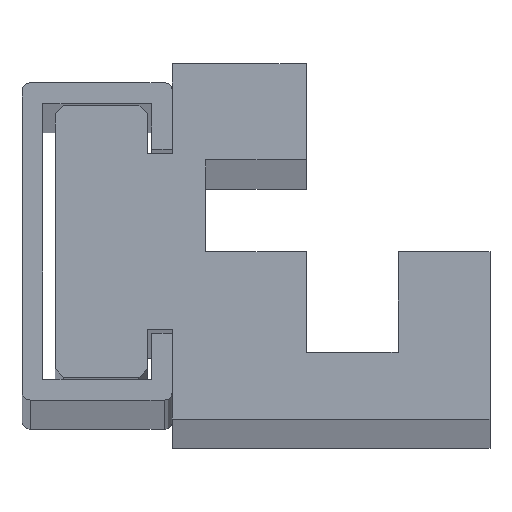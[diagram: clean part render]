
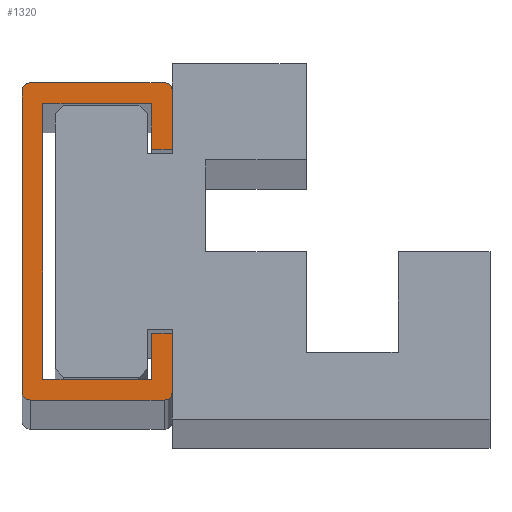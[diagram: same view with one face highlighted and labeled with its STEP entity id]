
A CAD part, top view. The second image highlights one B-rep face of the part: STEP entity #1320.
In plain terms, the highlighted planar face has unit normal (0, 0, 1).
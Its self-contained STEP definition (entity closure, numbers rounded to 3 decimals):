
#8 = VERTEX_POINT ( 'NONE', #234 ) ;
#18 = VECTOR ( 'NONE', #127, 1000. ) ;
#22 = CARTESIAN_POINT ( 'NONE',  ( 18., 0., 0. ) ) ;
#71 = VECTOR ( 'NONE', #1240, 1000. ) ;
#87 = DIRECTION ( 'NONE',  ( 1., 0., 0. ) ) ;
#100 = ORIENTED_EDGE ( 'NONE', *, *, #1472, .T. ) ;
#114 = DIRECTION ( 'NONE',  ( 0., 0., 1. ) ) ;
#120 = EDGE_LOOP ( 'NONE', ( #1027, #870, #448, #1674, #1498, #1300, #236, #1396, #1722, #417, #1206, #1516, #806, #1301, #841, #100 ) ) ;
#122 = CARTESIAN_POINT ( 'NONE',  ( -16.5, 2.5, 0. ) ) ;
#124 = VECTOR ( 'NONE', #452, 1000. ) ;
#127 = DIRECTION ( 'NONE',  ( 0., -1., 0. ) ) ;
#132 = AXIS2_PLACEMENT_3D ( 'NONE', #1496, #262, #807 ) ;
#147 = DIRECTION ( 'NONE',  ( 0., 0., 1. ) ) ;
#149 = CARTESIAN_POINT ( 'NONE',  ( -18., 1., 0. ) ) ;
#193 = VERTEX_POINT ( 'NONE', #268 ) ;
#195 = EDGE_CURVE ( 'NONE', #1602, #782, #1513, .T. ) ;
#198 = EDGE_CURVE ( 'NONE', #1322, #1602, #536, .T. ) ;
#210 = VERTEX_POINT ( 'NONE', #122 ) ;
#224 = DIRECTION ( 'NONE',  ( 0., 1., 0. ) ) ;
#234 = CARTESIAN_POINT ( 'NONE',  ( -19., 1., 0. ) ) ;
#236 = ORIENTED_EDGE ( 'NONE', *, *, #1452, .T. ) ;
#241 = EDGE_CURVE ( 'NONE', #318, #443, #1770, .T. ) ;
#256 = AXIS2_PLACEMENT_3D ( 'NONE', #1400, #997, #726 ) ;
#262 = DIRECTION ( 'NONE',  ( 0., 0., 1. ) ) ;
#268 = CARTESIAN_POINT ( 'NONE',  ( -18., 0., 0. ) ) ;
#271 = LINE ( 'NONE', #1640, #1657 ) ;
#308 = LINE ( 'NONE', #561, #789 ) ;
#313 = CARTESIAN_POINT ( 'NONE',  ( -19., 17., 0. ) ) ;
#318 = VERTEX_POINT ( 'NONE', #1201 ) ;
#336 = VECTOR ( 'NONE', #685, 1000. ) ;
#338 = CIRCLE ( 'NONE', #559, 1. ) ;
#346 = VECTOR ( 'NONE', #1586, 1000. ) ;
#360 = CARTESIAN_POINT ( 'NONE',  ( -11., 18., 0. ) ) ;
#373 = VERTEX_POINT ( 'NONE', #930 ) ;
#382 = EDGE_CURVE ( 'NONE', #401, #989, #271, .T. ) ;
#401 = VERTEX_POINT ( 'NONE', #1773 ) ;
#417 = ORIENTED_EDGE ( 'NONE', *, *, #241, .T. ) ;
#421 = EDGE_CURVE ( 'NONE', #210, #1478, #1393, .T. ) ;
#443 = VERTEX_POINT ( 'NONE', #1525 ) ;
#448 = ORIENTED_EDGE ( 'NONE', *, *, #1642, .T. ) ;
#452 = DIRECTION ( 'NONE',  ( 0., 1., 0. ) ) ;
#496 = LINE ( 'NONE', #1568, #346 ) ;
#500 = VERTEX_POINT ( 'NONE', #1708 ) ;
#512 = CARTESIAN_POINT ( 'NONE',  ( -11., 15.5, 0. ) ) ;
#536 = LINE ( 'NONE', #1390, #71 ) ;
#557 = LINE ( 'NONE', #566, #829 ) ;
#559 = AXIS2_PLACEMENT_3D ( 'NONE', #824, #147, #1405 ) ;
#561 = CARTESIAN_POINT ( 'NONE',  ( -16.5, 15.5, 0. ) ) ;
#564 = CARTESIAN_POINT ( 'NONE',  ( -16.5, 2.5, 0. ) ) ;
#566 = CARTESIAN_POINT ( 'NONE',  ( 11., 18., 0. ) ) ;
#655 = CARTESIAN_POINT ( 'NONE',  ( -19., 1., 0. ) ) ;
#671 = DIRECTION ( 'NONE',  ( -1., 0., 0. ) ) ;
#683 = AXIS2_PLACEMENT_3D ( 'NONE', #937, #114, #87 ) ;
#685 = DIRECTION ( 'NONE',  ( -1., 0., 0. ) ) ;
#694 = DIRECTION ( 'NONE',  ( 0., 0., 1. ) ) ;
#726 = DIRECTION ( 'NONE',  ( 1., 0., 0. ) ) ;
#764 = EDGE_CURVE ( 'NONE', #500, #1768, #1191, .T. ) ;
#782 = VERTEX_POINT ( 'NONE', #1197 ) ;
#786 = DIRECTION ( 'NONE',  ( 0., -1., 0. ) ) ;
#789 = VECTOR ( 'NONE', #1251, 1000. ) ;
#796 = FACE_OUTER_BOUND ( 'NONE', #120, .T. ) ;
#806 = ORIENTED_EDGE ( 'NONE', *, *, #1328, .T. ) ;
#807 = DIRECTION ( 'NONE',  ( 1., 0., 0. ) ) ;
#824 = CARTESIAN_POINT ( 'NONE',  ( 18., 1., 0. ) ) ;
#829 = VECTOR ( 'NONE', #1126, 1000. ) ;
#832 = CARTESIAN_POINT ( 'NONE',  ( 18., 18., 0. ) ) ;
#841 = ORIENTED_EDGE ( 'NONE', *, *, #421, .T. ) ;
#870 = ORIENTED_EDGE ( 'NONE', *, *, #195, .T. ) ;
#919 = CARTESIAN_POINT ( 'NONE',  ( 16.5, 2.5, 0. ) ) ;
#930 = CARTESIAN_POINT ( 'NONE',  ( 16.5, 2.5, 0. ) ) ;
#937 = CARTESIAN_POINT ( 'NONE',  ( -18., 17., 0. ) ) ;
#941 = PLANE ( 'NONE',  #132 ) ;
#978 = CIRCLE ( 'NONE', #256, 1. ) ;
#989 = VERTEX_POINT ( 'NONE', #1234 ) ;
#997 = DIRECTION ( 'NONE',  ( 0., 0., 1. ) ) ;
#1027 = ORIENTED_EDGE ( 'NONE', *, *, #198, .T. ) ;
#1069 = VERTEX_POINT ( 'NONE', #313 ) ;
#1081 = EDGE_CURVE ( 'NONE', #1768, #318, #978, .T. ) ;
#1086 = DIRECTION ( 'NONE',  ( -1., 0., 0. ) ) ;
#1099 = VERTEX_POINT ( 'NONE', #22 ) ;
#1103 = DIRECTION ( 'NONE',  ( 1., 0., 0. ) ) ;
#1126 = DIRECTION ( 'NONE',  ( 0., -1., 0. ) ) ;
#1131 = EDGE_CURVE ( 'NONE', #443, #401, #557, .T. ) ;
#1170 = CARTESIAN_POINT ( 'NONE',  ( 19., 1., 0. ) ) ;
#1175 = CIRCLE ( 'NONE', #683, 1. ) ;
#1189 = EDGE_CURVE ( 'NONE', #193, #1099, #496, .T. ) ;
#1191 = LINE ( 'NONE', #1170, #1726 ) ;
#1197 = CARTESIAN_POINT ( 'NONE',  ( -18., 18., 0. ) ) ;
#1201 = CARTESIAN_POINT ( 'NONE',  ( 18., 18., 0. ) ) ;
#1206 = ORIENTED_EDGE ( 'NONE', *, *, #1131, .T. ) ;
#1207 = CARTESIAN_POINT ( 'NONE',  ( 16.5, 2.5, 0. ) ) ;
#1217 = LINE ( 'NONE', #655, #1299 ) ;
#1226 = CARTESIAN_POINT ( 'NONE',  ( -18., 18., 0. ) ) ;
#1234 = CARTESIAN_POINT ( 'NONE',  ( 16.5, 15.5, 0. ) ) ;
#1240 = DIRECTION ( 'NONE',  ( 0., 1., 0. ) ) ;
#1251 = DIRECTION ( 'NONE',  ( 1., 0., 0. ) ) ;
#1268 = EDGE_CURVE ( 'NONE', #1069, #8, #1217, .T. ) ;
#1299 = VECTOR ( 'NONE', #786, 1000. ) ;
#1300 = ORIENTED_EDGE ( 'NONE', *, *, #1189, .T. ) ;
#1301 = ORIENTED_EDGE ( 'NONE', *, *, #1611, .T. ) ;
#1320 = ADVANCED_FACE ( 'NONE', ( #796 ), #941, .T. ) ;
#1322 = VERTEX_POINT ( 'NONE', #512 ) ;
#1328 = EDGE_CURVE ( 'NONE', #989, #373, #1372, .T. ) ;
#1345 = EDGE_CURVE ( 'NONE', #8, #193, #1435, .T. ) ;
#1354 = LINE ( 'NONE', #1207, #1634 ) ;
#1355 = AXIS2_PLACEMENT_3D ( 'NONE', #149, #694, #1103 ) ;
#1363 = CARTESIAN_POINT ( 'NONE',  ( 19., 17., 0. ) ) ;
#1372 = LINE ( 'NONE', #919, #18 ) ;
#1390 = CARTESIAN_POINT ( 'NONE',  ( -11., 18., 0. ) ) ;
#1393 = LINE ( 'NONE', #564, #124 ) ;
#1396 = ORIENTED_EDGE ( 'NONE', *, *, #764, .T. ) ;
#1400 = CARTESIAN_POINT ( 'NONE',  ( 18., 17., 0. ) ) ;
#1405 = DIRECTION ( 'NONE',  ( 1., 0., 0. ) ) ;
#1435 = CIRCLE ( 'NONE', #1355, 1. ) ;
#1452 = EDGE_CURVE ( 'NONE', #1099, #500, #338, .T. ) ;
#1472 = EDGE_CURVE ( 'NONE', #1478, #1322, #308, .T. ) ;
#1478 = VERTEX_POINT ( 'NONE', #1665 ) ;
#1496 = CARTESIAN_POINT ( 'NONE',  ( 18., 17., 0. ) ) ;
#1497 = DIRECTION ( 'NONE',  ( 1., 0., 0. ) ) ;
#1498 = ORIENTED_EDGE ( 'NONE', *, *, #1345, .T. ) ;
#1513 = LINE ( 'NONE', #1226, #336 ) ;
#1516 = ORIENTED_EDGE ( 'NONE', *, *, #382, .T. ) ;
#1525 = CARTESIAN_POINT ( 'NONE',  ( 11., 18., 0. ) ) ;
#1559 = VECTOR ( 'NONE', #1086, 1000. ) ;
#1568 = CARTESIAN_POINT ( 'NONE',  ( 18., 0., 0. ) ) ;
#1586 = DIRECTION ( 'NONE',  ( 1., 0., 0. ) ) ;
#1602 = VERTEX_POINT ( 'NONE', #360 ) ;
#1611 = EDGE_CURVE ( 'NONE', #373, #210, #1354, .T. ) ;
#1634 = VECTOR ( 'NONE', #671, 1000. ) ;
#1640 = CARTESIAN_POINT ( 'NONE',  ( 16.5, 15.5, 0. ) ) ;
#1642 = EDGE_CURVE ( 'NONE', #782, #1069, #1175, .T. ) ;
#1657 = VECTOR ( 'NONE', #1497, 1000. ) ;
#1665 = CARTESIAN_POINT ( 'NONE',  ( -16.5, 15.5, 0. ) ) ;
#1674 = ORIENTED_EDGE ( 'NONE', *, *, #1268, .T. ) ;
#1708 = CARTESIAN_POINT ( 'NONE',  ( 19., 1., 0. ) ) ;
#1722 = ORIENTED_EDGE ( 'NONE', *, *, #1081, .T. ) ;
#1726 = VECTOR ( 'NONE', #224, 1000. ) ;
#1768 = VERTEX_POINT ( 'NONE', #1363 ) ;
#1770 = LINE ( 'NONE', #832, #1559 ) ;
#1773 = CARTESIAN_POINT ( 'NONE',  ( 11., 15.5, 0. ) ) ;
